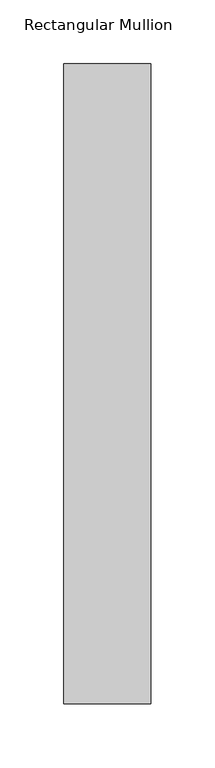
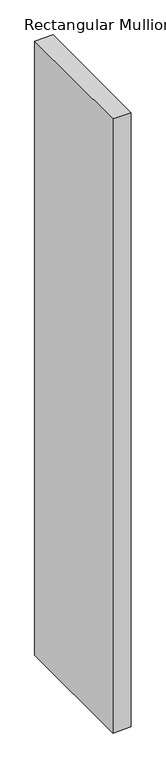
"""IFC4 building model written with IfcOpenShell, lengths in millimetres: member geometry, Rectangular Mullion : DucoSun Cubic Design louvre 500."""

from ifc_helpers import new_model, si_unit, frame, origin, place, context, project, spatial, polyline, outline, extrude, source, transform, mapped, element, save


def rectangular_mullion_eea72dfc(model_context):
    return source(origin(), model_context, "Body", "SweptSolid", [
        extrude(outline(polyline([(34.0, 500.0), (34.0, 0.0), (-34.0, 0.0), (-34.0, 500.0), (34.0, 500.0)])), frame((0.0, 0.0, -2400.0), z_axis=(0.0, 0.0, 1.0), x_axis=(1.0, 0.0, 0.0)), (0.0, 0.0, 1.0), 2400.0),
    ])


if __name__ == "__main__":
    model = new_model("IFC4")
    model_context = context("Model", 3, world=origin())
    ifc_project = project(units=[si_unit("LENGTHUNIT", "METRE", prefix="MILLI")], contexts=[model_context])
    site = spatial("IfcSite", under=ifc_project)
    building = spatial("IfcBuilding", under=site)
    placement = place(None, origin())
    rectangular_mullion_shape = rectangular_mullion_eea72dfc(model_context)
    element("IfcMember", 1, ObjectType="Rectangular Mullion : DucoSun Cubic Design louvre 500", at=placement, inside=building, context=model_context, shape_type="MappedRepresentation", body=[
        mapped(rectangular_mullion_shape, transform((0.0, 0.0, 0.0), x_axis=(1.0, 0.0, 0.0), y_axis=(0.0, 1.0, 0.0), z_axis=(0.0, 0.0, 1.0))),
    ])
    save(model, "model.ifc")
